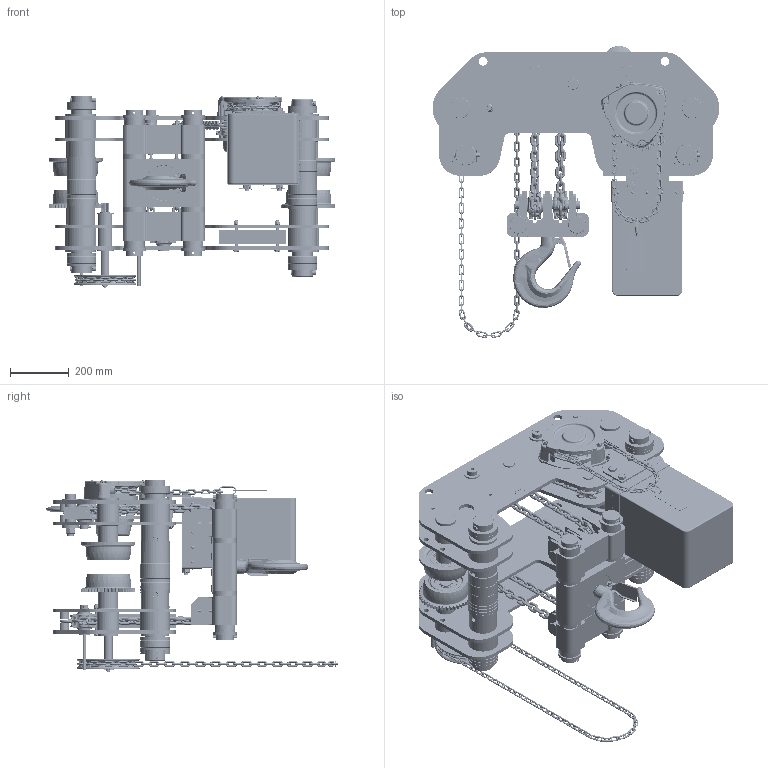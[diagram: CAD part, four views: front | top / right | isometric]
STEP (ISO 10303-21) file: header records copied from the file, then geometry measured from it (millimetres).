
FILE_DESCRIPTION (( 'STEP AP214' ), '1' );
FILE_NAME ('SHB080.STEP', '2026-08-12T18:23:48', ( '' ), ( '' ), 'SwSTEP 2.0', 'SolidWorks 2026', '' );
FILE_SCHEMA (( 'AUTOMOTIVE_DESIGN' ));
Length unit declared in the file: inch
Products named in the file (143): M6SE100S91645; CB080 LABEL; J1WB012-10300_J1WB012-10300; 9012713_9012713; 9016204_9016204; T3GA100-11011_T3GA100-11011; 74CG100-91342; 9009437_9009437; Rivit; C3BA025-61012; HCCF005 for SHB100; J1PW01-030022_J1PW01-030022; LCC3020; CB010 hand Chain; C3BA025-20012; C2BA020-90491; M3161025; J1PS11-060045_J1PS11-060045; rivet 07_din_DIN 674-4x6-St-A-1.5; M3B115025; 72CG100-91031H; 74SH100-15671; 9010004_3107T43; C3BA025-10211; MS116075; 74CG100-92021; M3177025; J1SR000-00090_J1SR000-00090; J1PS11-060050_J1PS11-060050; T6PD0059865; M3116025; J1PW01-040028_J1PW01-040028; J1SS000-00040_J1SS000-00040; HCCF005; C3BA025-91042; 74CG100-91071H; C3BA025-10012; 80522; 72BD100-91021; C3BA025-90312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
Assembly tree (636 placements, depth 6):
  SHB080
    74SH100-05101H
      74CG100-11401H
        74CG100-51111H
          74CG100-91011H
          72CG100-91041H  x2
          72CG100-91031H  x2
          74CG100-91021H
          72CG100-91062  x2
          72CG100-91051
          74CG100-90031  x2
          74CG050-91111H  x2
        72BD100-94021H
        74CG100-92221
        C3BA050-10512
          C3BA050-90512
          C3BA050-90611  x2
        J1PS11-060045_J1PS11-060045
        74CG100-91161H
        T3GA100-11021
          T3GA1009102
          6308Z Bearing
          J1SR000-00090_J1SR000-00090
        T3GA100-11011_T3GA100-11011
          T3GA1009101
          6308Z Bearing
          J1SR000-00090_J1SR000-00090
        T1GC200-91042  x2
        T3GB100-91212_T3GB100-91212
        J1SS000-00040_J1SS000-00040  x2
        J1NL001-10120_J1NL001-10120
        J1PW01-030022_J1PW01-030022
        J1WB011-10120_J1WB011-10120
        J1WB012-10300_J1WB012-10300  x2
        J1SS000-00030_J1SS000-00030  x2
        J1BA1-1010026_J1BA1-1010026  x4
        C2BA200-90741_C2BA200-90741  x4
        9010004_3107T43
      74CG100-11411H
        74CG100-51121H
          74CG100-91071H
          72CG100-91041H  x2
          72CG100-91031H  x2
          74CG100-91081H
          74CG050-91111H  x4
          74CG100-90031  x4
          72CG100-91391  x4
        T3GA100-11021  x2
          T3GA1009102
          6308Z Bearing
          J1SR000-00090_J1SR000-00090
        74CG100-91161H  x2
        74CG100-91342
        C3BA050-10512  x2
          C3BA050-90512
          C3BA050-90611
        J1PS11-060045_J1PS11-060045  x2
        T1GC200-91042  x2
        J1SS000-00040_J1SS000-00040  x2
        74CG100-91351
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Bounding box: 978.2 x 995.7 x 657.8 mm (x, y, z)
Volume: 49291950.3 mm3; surface area: 9358231 mm2
Topology: 664 solids, 680 shells, 29651 faces, 73450 edges, 45781 vertices
Faces by surface type: plane 10180, cylinder 8016, torus 5783, bspline 3682, cone 1432, sphere 558
Entity records: 618939 total; most frequent: CARTESIAN_POINT 250542, ORIENTED_EDGE 65934, DIRECTION 53807, EDGE_CURVE 32969, VERTEX_POINT 21145, AXIS2_PLACEMENT_3D 18412, VECTOR 16983, LINE 16983
